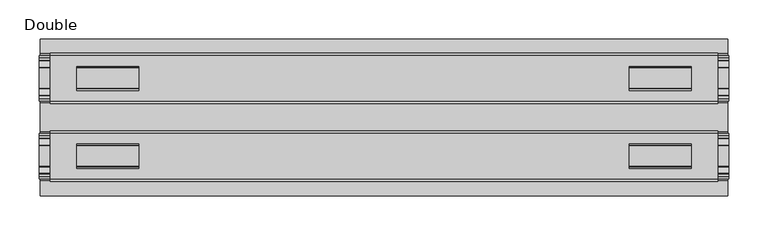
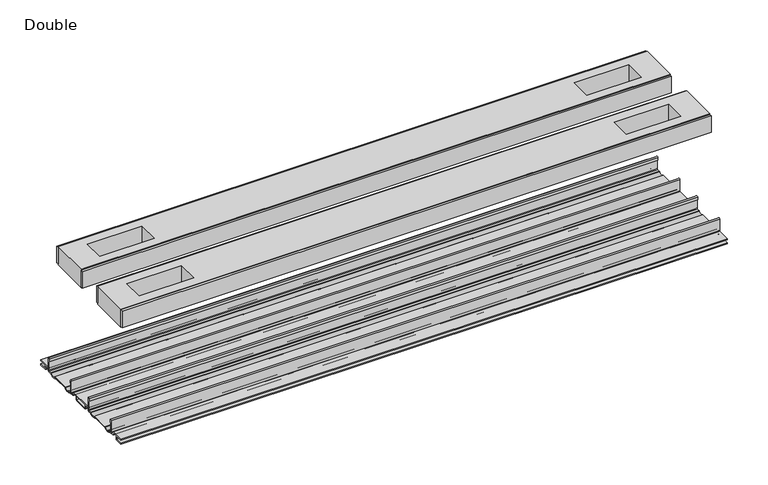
"""IFC4 building model written with IfcOpenShell, lengths in millimetres: proxy geometry, Frame-Teknion-FHCRA-Horizontal_Rail-R2022 : Double."""

import ifcopenshell
import ifcopenshell.guid

model = None  # the IFC model being written
_history = None  # IfcOwnerHistory: only IFC2X3 demands one
_inside = {}  # id of a spatial element -> (the spatial element, [elements in it])
_under = {}  # id of a project, library or spatial element -> (it, [spatial elements below it])
_declared = {}  # id of a project -> (the project, [libraries it declares])
_typed = {}  # id of a type object -> (the type object, [elements of that type])
_made_of = {}  # id of a material, layer set ... -> (it, [elements and type objects made of it])


def new_model(schema):
    """Start an empty IFC model of exactly this schema.

    Asked for "IFC4X3", IfcOpenShell would pick the latest addendum, in which some entities
    have other attributes; the version numbers below select the first issue.
    IFC2X3 requires an IfcOwnerHistory on every rooted entity: one is made here for all.
    """
    global model, _history
    if schema == "IFC4X3":
        model = ifcopenshell.file(schema_version=(4, 3, 0, 0))
    else:
        model = ifcopenshell.file(schema=schema)
    _inside.clear()
    _under.clear()
    _declared.clear()
    _typed.clear()
    _made_of.clear()
    _history = None
    if model.schema == "IFC2X3":
        org = make("IfcOrganization", Name="unknown")
        user = make(
            "IfcPersonAndOrganization",
            ThePerson=make("IfcPerson", FamilyName="unknown"),
            TheOrganization=org,
        )
        app = make(
            "IfcApplication",
            ApplicationDeveloper=org,
            Version="unknown",
            ApplicationFullName="unknown",
            ApplicationIdentifier="unknown",
        )
        _history = make(
            "IfcOwnerHistory",
            OwningUser=user,
            OwningApplication=app,
            ChangeAction="ADDED",
            CreationDate=0,
        )
    return model


def make(cls, **values):
    """One entity of the class cls with the attributes given. An attribute that is None is left unset."""
    return model.create_entity(
        cls, **{name: value for name, value in values.items() if value is not None}
    )


def rooted(cls, **values):
    """An entity with a GlobalId (a new one), such as an element, a storey or a relation."""
    return make(cls, GlobalId=ifcopenshell.guid.new(), OwnerHistory=_history, **values)


def si_unit(unit_type, name, prefix=None):
    """IfcSIUnit, for example si_unit("LENGTHUNIT", "METRE", prefix="MILLI")."""
    return make("IfcSIUnit", UnitType=unit_type, Prefix=prefix, Name=name)


def assignment(units):
    """IfcUnitAssignment: the units of a project."""
    return None if units is None else make("IfcUnitAssignment", Units=units)


def point(xyz):
    """IfcCartesianPoint."""
    return None if xyz is None else make("IfcCartesianPoint", Coordinates=xyz)


def direction(xyz):
    """IfcDirection."""
    return None if xyz is None else make("IfcDirection", DirectionRatios=xyz)


def frame(location, z_axis=None, x_axis=None):
    """IfcAxis2Placement3D, a coordinate frame: its origin and axes. An axis left out is left unset."""
    return make(
        "IfcAxis2Placement3D",
        Location=point(location),
        Axis=direction(z_axis),
        RefDirection=direction(x_axis),
    )


def frame_2d(location, x_axis=None):
    """IfcAxis2Placement2D, a coordinate frame in the plane: its origin and x axis."""
    return make(
        "IfcAxis2Placement2D", Location=point(location), RefDirection=direction(x_axis)
    )


def origin():
    """The frame at (0, 0, 0) with its axes left unset."""
    return frame((0.0, 0.0, 0.0))


def place(relative_to, where):
    """IfcLocalPlacement: puts the frame where relative to a parent placement (None: the world)."""
    return make(
        "IfcLocalPlacement", PlacementRelTo=relative_to, RelativePlacement=where
    )


def context(
    kind, dimensions, precision=None, world=None, true_north=None, identifier=None
):
    """IfcGeometricRepresentationContext, for example the 3D "Model" context."""
    return make(
        "IfcGeometricRepresentationContext",
        ContextIdentifier=identifier,
        ContextType=kind,
        CoordinateSpaceDimension=dimensions,
        Precision=precision,
        WorldCoordinateSystem=world,
        TrueNorth=true_north,
    )


def project(units=None, contexts=None):
    """IfcProject with its units and contexts."""
    return rooted(
        "IfcProject",
        Name="project",
        RepresentationContexts=contexts,
        UnitsInContext=assignment(units),
    )


def spatial(cls, under=None, at=None, **own):
    """A site, building, storey or space (cls), placed at a placement, below another one or the project."""
    s = rooted(cls, ObjectPlacement=at, **own)
    if under is not None:
        _under.setdefault(under.id(), (under, []))[1].append(s)
    return s


def polyline(points):
    """IfcPolyline through the points."""
    return make("IfcPolyline", Points=[point(p) for p in points])


def circle_curve(where, radius):
    """IfcCircle in the frame where."""
    return make("IfcCircle", Position=where, Radius=radius)


def trimmed(basis, trim1, trim2, sense, master):
    """IfcTrimmedCurve: the piece of a basis curve between two trims."""
    return make(
        "IfcTrimmedCurve",
        BasisCurve=basis,
        Trim1=trim1,
        Trim2=trim2,
        SenseAgreement=sense,
        MasterRepresentation=master,
    )


def segment(curve, same_sense, transition):
    """IfcCompositeCurveSegment."""
    return make(
        "IfcCompositeCurveSegment",
        Transition=transition,
        SameSense=same_sense,
        ParentCurve=curve,
    )


def composite_curve(segments, self_intersect=None):
    """IfcCompositeCurve: segments joined end to end."""
    return make("IfcCompositeCurve", Segments=segments, SelfIntersect=self_intersect)


def outline(outer, holes=None, kind="AREA"):
    """IfcArbitraryClosedProfileDef: a profile drawn as a closed curve; with holes, ...WithVoids."""
    if holes is None:
        return make("IfcArbitraryClosedProfileDef", ProfileType=kind, OuterCurve=outer)
    return make(
        "IfcArbitraryProfileDefWithVoids",
        ProfileType=kind,
        OuterCurve=outer,
        InnerCurves=holes,
    )


def extrude(swept, where, along, depth):
    """IfcExtrudedAreaSolid: the profile swept, set in the frame where, extruded along a direction by depth."""
    return make(
        "IfcExtrudedAreaSolid",
        SweptArea=swept,
        Position=where,
        ExtrudedDirection=direction(along),
        Depth=depth,
    )


def shape(context_of_items, identifier, shape_type, items):
    """IfcShapeRepresentation: the items that make up one representation, for example the "Body"."""
    return make(
        "IfcShapeRepresentation",
        ContextOfItems=context_of_items,
        RepresentationIdentifier=identifier,
        RepresentationType=shape_type,
        Items=items,
    )


def source(mapping_origin, context_of_items, identifier, shape_type, items):
    """IfcRepresentationMap: a shape defined once, which mapped items show again and again."""
    return make(
        "IfcRepresentationMap",
        MappingOrigin=mapping_origin,
        MappedRepresentation=shape(context_of_items, identifier, shape_type, items),
    )


def transform(
    local_origin,
    x_axis=None,
    y_axis=None,
    z_axis=None,
    scale=None,
    scale2=None,
    scale3=None,
    uniform=True,
):
    """IfcCartesianTransformationOperator3D, or its non-uniform kind. x_axis, y_axis, z_axis: its Axis1, 2, 3."""
    if uniform:
        return make(
            "IfcCartesianTransformationOperator3D",
            Axis1=direction(x_axis),
            Axis2=direction(y_axis),
            LocalOrigin=point(local_origin),
            Scale=scale,
            Axis3=direction(z_axis),
        )
    return make(
        "IfcCartesianTransformationOperator3DnonUniform",
        Axis1=direction(x_axis),
        Axis2=direction(y_axis),
        LocalOrigin=point(local_origin),
        Scale=scale,
        Axis3=direction(z_axis),
        Scale2=scale2,
        Scale3=scale3,
    )


def mapped(mapping_source, mapping_target):
    """IfcMappedItem: shows the shape of a source again, moved by a transform."""
    return make(
        "IfcMappedItem", MappingSource=mapping_source, MappingTarget=mapping_target
    )


def made_of(thing, what):
    """Note that an element or type object is made of a material, layer set ...; save() writes the relation."""
    if what is not None:
        _made_of.setdefault(what.id(), (what, []))[1].append(thing)
    return thing


def element(
    cls,
    number,
    at=None,
    inside=None,
    cuts=None,
    type_object=None,
    material=None,
    context=None,
    identifier="Body",
    shape_type=None,
    held_by="IfcProductDefinitionShape",
    body=None,
    shapes=None,
    **own,
):
    """One element of the class cls, such as IfcWall. Its Tag is "e" and its number.

    at: its placement. inside: the storey or other place that contains it. cuts: it is an
    opening in that element (IfcRelVoidsElement). A single representation is given by context,
    identifier, shape_type and body (its items); several are given by shapes. held_by: the class
    of the entity that holds the representations. save() writes the other relations.
    """
    e = rooted(cls, Tag="e%d" % number, ObjectPlacement=at, **own)
    if body is not None:
        shapes = [shape(context, identifier, shape_type, body)]
    if shapes is not None:
        e.Representation = make(held_by, Representations=shapes)
    if inside is not None:
        _inside.setdefault(inside.id(), (inside, []))[1].append(e)
    if cuts is not None:
        rooted(
            "IfcRelVoidsElement", RelatingBuildingElement=cuts, RelatedOpeningElement=e
        )
    if type_object is not None:
        _typed.setdefault(type_object.id(), (type_object, []))[1].append(e)
    return made_of(e, material)


def aggregate(whole, parts):
    """IfcRelAggregates: a whole, such as a stair, and the parts it consists of."""
    return rooted("IfcRelAggregates", RelatingObject=whole, RelatedObjects=parts)


def save(model, path):
    """Write the relations noted so far, then the file.

    IfcRelAggregates (storeys below a building ...), IfcRelContainedInSpatialStructure (elements
    in a storey), IfcRelDefinesByType, IfcRelAssociatesMaterial and IfcRelDeclares: one each for
    every whole, place, type object, material and project.
    """
    for whole, parts in _under.values():
        aggregate(whole, parts)
    for where, things in _inside.values():
        rooted(
            "IfcRelContainedInSpatialStructure",
            RelatedElements=things,
            RelatingStructure=where,
        )
    for kind, things in _typed.values():
        rooted("IfcRelDefinesByType", RelatedObjects=things, RelatingType=kind)
    for what, things in _made_of.values():
        rooted("IfcRelAssociatesMaterial", RelatedObjects=things, RelatingMaterial=what)
    for by, libraries in _declared.values():
        rooted("IfcRelDeclares", RelatingContext=by, RelatedDefinitions=libraries)
    model.write(path)


def double_16775ed8(model_context):
    return source(origin(), model_context, "Body", "SweptSolid", [
        extrude(outline(composite_curve([segment(polyline([(-78.8225461, -7.7516037), (-78.8225461, 9.8607558)]), True, "CONTINUOUS"), segment(trimmed(circle_curve(frame_2d((-77.6033482, 9.8607558)), 1.2191979), [point((-78.8225461, 9.8607558))], [point((-76.3841503, 9.8607558))], False, "CARTESIAN"), True, "CONTINUOUS"), segment(polyline([(-76.3841503, 9.8607558), (-76.3841503, 5.9999563), (-77.6643269, 5.9999563), (-77.6643269, -7.7516037)]), True, "CONTINUOUS"), segment(trimmed(circle_curve(frame_2d((-76.6483061, -7.7516037)), 1.0160208), [point((-77.6643269, -7.7516037))], [point((-76.6548232, -8.7676036))], True, "CARTESIAN"), True, "CONTINUOUS"), segment(polyline([(-76.6548232, -8.7676036), (-72.7118726, -8.7676036), (-71.7985108, -8.968753)]), True, "CONTINUOUS"), segment(trimmed(circle_curve(frame_2d((-67.7735521, -6.1259382)), 4.9276657), [point((-71.7985108, -8.968753))], [point((-63.7485934, -8.968753))], True, "CARTESIAN"), True, "CONTINUOUS"), segment(polyline([(-63.7485934, -8.968753), (-62.8352226, -8.7676036), (-36.7962778, -8.7676036), (-35.8829069, -8.968753)]), True, "CONTINUOUS"), segment(trimmed(circle_curve(frame_2d((-31.8579482, -6.1259382)), 4.9276657), [point((-35.8829069, -8.968753))], [point((-27.8329895, -8.968753))], True, "CARTESIAN"), True, "CONTINUOUS"), segment(polyline([(-27.8329895, -8.968753), (-26.9196277, -8.7676036), (-22.9766772, -8.7676036)]), True, "CONTINUOUS"), segment(trimmed(circle_curve(frame_2d((-22.9831943, -7.7516037)), 1.0160208), [point((-22.9766772, -8.7676036))], [point((-21.9671735, -7.7516037))], True, "CARTESIAN"), True, "CONTINUOUS"), segment(polyline([(-21.9671735, -7.7516037), (-21.9671735, 5.9999563), (-23.2473501, 5.9999563), (-23.2473501, 9.8607558)]), True, "CONTINUOUS"), segment(trimmed(circle_curve(frame_2d((-22.0281522, 9.8607558)), 1.2191979), [point((-23.2473501, 9.8607558))], [point((-20.8089542, 9.8607558))], False, "CARTESIAN"), True, "CONTINUOUS"), segment(polyline([(-20.8089542, 9.8607558), (-20.8089542, -7.7516037)]), True, "CONTINUOUS"), segment(trimmed(circle_curve(frame_2d((-22.9831943, -7.7516037)), 2.17424), [point((-20.8089542, -7.7516037))], [point((-22.9831943, -9.9258438))], False, "CARTESIAN"), True, "CONTINUOUS"), segment(polyline([(-22.9831943, -9.9258438), (-27.274181, -9.9258438)]), True, "CONTINUOUS"), segment(trimmed(circle_curve(frame_2d((-31.8545955, -6.4800016)), 5.7318431), [point((-27.274181, -9.9258438))], [point((-36.43501, -9.9258438))], False, "CARTESIAN"), True, "CONTINUOUS"), segment(polyline([(-36.43501, -9.9258438), (-63.1964904, -9.9258438)]), True, "CONTINUOUS"), segment(trimmed(circle_curve(frame_2d((-67.7769049, -6.4800016)), 5.7318431), [point((-63.1964904, -9.9258438))], [point((-72.3573194, -9.9258438))], False, "CARTESIAN"), True, "CONTINUOUS"), segment(polyline([(-72.3573194, -9.9258438), (-76.6483061, -9.9258438)]), True, "CONTINUOUS"), segment(trimmed(circle_curve(frame_2d((-76.6483061, -7.7516037)), 2.17424), [point((-76.6483061, -9.9258438))], [point((-78.8225461, -7.7516037))], False, "CARTESIAN"), True, "CONTINUOUS")], self_intersect=False)), frame((-441.5715701, 0.0, 0.0), z_axis=(1.0, 0.0, 0.0), x_axis=(0.0, 1.0, 0.0)), (0.0, 0.0, 1.0), 883.1431403),
        extrude(outline(composite_curve([segment(trimmed(circle_curve(frame_2d((77.0293057, -7.7516037)), 2.17424), [point((79.2035458, -7.7516037))], [point((77.0293057, -9.9258438))], False, "CARTESIAN"), True, "CONTINUOUS"), segment(polyline([(77.0293057, -9.9258438), (72.738319, -9.9258438)]), True, "CONTINUOUS"), segment(trimmed(circle_curve(frame_2d((68.1579045, -6.4800016)), 5.7318431), [point((72.738319, -9.9258438))], [point((63.57749, -9.9258438))], False, "CARTESIAN"), True, "CONTINUOUS"), segment(polyline([(63.57749, -9.9258438), (36.8160096, -9.9258438)]), True, "CONTINUOUS"), segment(trimmed(circle_curve(frame_2d((32.2355951, -6.4800016)), 5.7318431), [point((36.8160096, -9.9258438))], [point((27.6551806, -9.9258438))], False, "CARTESIAN"), True, "CONTINUOUS"), segment(polyline([(27.6551806, -9.9258438), (23.3641939, -9.9258438)]), True, "CONTINUOUS"), segment(trimmed(circle_curve(frame_2d((23.3641939, -7.7516037)), 2.17424), [point((23.3641939, -9.9258438))], [point((21.1899539, -7.7516037))], False, "CARTESIAN"), True, "CONTINUOUS"), segment(polyline([(21.1899539, -7.7516037), (21.1899539, 9.8607558)]), True, "CONTINUOUS"), segment(trimmed(circle_curve(frame_2d((22.4091518, 9.8607558)), 1.2191979), [point((21.1899539, 9.8607558))], [point((23.6283497, 9.8607558))], False, "CARTESIAN"), True, "CONTINUOUS"), segment(polyline([(23.6283497, 9.8607558), (23.6283497, 5.9999563), (22.3481731, 5.9999563), (22.3481731, -7.7516037)]), True, "CONTINUOUS"), segment(trimmed(circle_curve(frame_2d((23.3641939, -7.7516037)), 1.0160208), [point((22.3481731, -7.7516037))], [point((23.3576768, -8.7676036))], True, "CARTESIAN"), True, "CONTINUOUS"), segment(polyline([(23.3576768, -8.7676036), (27.3006274, -8.7676036), (28.2139892, -8.968753)]), True, "CONTINUOUS"), segment(trimmed(circle_curve(frame_2d((32.2389479, -6.1259382)), 4.9276657), [point((28.2139892, -8.968753))], [point((36.2639066, -8.968753))], True, "CARTESIAN"), True, "CONTINUOUS"), segment(polyline([(36.2639066, -8.968753), (37.1772774, -8.7676036), (63.2162222, -8.7676036), (64.1295931, -8.968753)]), True, "CONTINUOUS"), segment(trimmed(circle_curve(frame_2d((68.1545518, -6.1259382)), 4.9276657), [point((64.1295931, -8.968753))], [point((72.1795105, -8.968753))], True, "CARTESIAN"), True, "CONTINUOUS"), segment(polyline([(72.1795105, -8.968753), (73.0928723, -8.7676036), (77.0358228, -8.7676036)]), True, "CONTINUOUS"), segment(trimmed(circle_curve(frame_2d((77.0293057, -7.7516037)), 1.0160208), [point((77.0358228, -8.7676036))], [point((78.0453265, -7.7516037))], True, "CARTESIAN"), True, "CONTINUOUS"), segment(polyline([(78.0453265, -7.7516037), (78.0453265, 5.9999563), (76.7651499, 5.9999563), (76.7651499, 9.8607558)]), True, "CONTINUOUS"), segment(trimmed(circle_curve(frame_2d((77.9843478, 9.8607558)), 1.2191979), [point((76.7651499, 9.8607558))], [point((79.2035458, 9.8607558))], False, "CARTESIAN"), True, "CONTINUOUS"), segment(polyline([(79.2035458, 9.8607558), (79.2035458, -7.7516037)]), True, "CONTINUOUS")], self_intersect=False)), frame((-441.5715701, 0.0, 0.0), z_axis=(1.0, 0.0, 0.0), x_axis=(0.0, 1.0, 0.0)), (0.0, 0.0, 1.0), 883.1431403),
        extrude(outline(polyline([(427.5126792, -78.8225461), (427.5126792, -81.9975522), (-427.5126792, -81.9975522), (-427.5126792, -78.8225461), (427.5126792, -78.8225461)])), frame((0.0, 0.0, 149.8401622), z_axis=(0.0, 0.0, 1.0), x_axis=(1.0, 0.0, 0.0)), (0.0, 0.0, 1.0), 25.3999939),
        extrude(outline(polyline([(427.5126792, -17.6339482), (427.5126792, -20.8089542), (-427.5126792, -20.8089542), (-427.5126792, -17.6339482), (427.5126792, -17.6339482)])), frame((0.0, 0.0, 149.8401622), z_axis=(0.0, 0.0, 1.0), x_axis=(1.0, 0.0, 0.0)), (0.0, 0.0, 1.0), 25.3999939),
        extrude(outline(polyline([(427.5126792, 21.1899493), (427.5126792, 18.0149501), (-427.5126792, 18.0149501), (-427.5126792, 21.1899493), (427.5126792, 21.1899493)])), frame((0.0, 0.0, 149.8401622), z_axis=(0.0, 0.0, 1.0), x_axis=(1.0, 0.0, 0.0)), (0.0, 0.0, 1.0), 25.3999939),
        extrude(outline(polyline([(427.5126792, 82.3785496), (427.5126792, 79.2035503), (-427.5126792, 79.2035503), (-427.5126792, 82.3785496), (427.5126792, 82.3785496)])), frame((0.0, 0.0, 149.8401622), z_axis=(0.0, 0.0, 1.0), x_axis=(1.0, 0.0, 0.0)), (0.0, 0.0, 1.0), 25.3999939),
        extrude(outline(polyline([(427.5126792, 79.2035503), (427.5126792, 21.1899493), (-427.5126792, 21.1899493), (-427.5126792, 79.2035503), (427.5126792, 79.2035503)]), holes=[polyline([(393.0956666, 65.3097536), (314.0508548, 65.3097536), (314.0508548, 34.3217468), (393.0956666, 34.3217468), (393.0956666, 65.3097536)]), polyline([(-393.0956666, 65.3097536), (-393.0956666, 34.3217468), (-314.0508548, 34.3217468), (-314.0508548, 65.3097536), (-393.0956666, 65.3097536)])]), frame((0.0, 0.0, 148.4185847), z_axis=(0.0, 0.0, 1.0), x_axis=(1.0, 0.0, 0.0)), (0.0, 0.0, 1.0), 27.9999988),
        extrude(outline(polyline([(427.5126792, -78.8225461), (-427.5126792, -78.8225461), (-427.5126792, -20.8224524), (427.5126792, -20.8224524), (427.5126792, -78.8225461)]), holes=[polyline([(393.0956666, -65.3097536), (393.0956666, -34.3217468), (314.0508548, -34.3217468), (314.0508548, -65.3097536), (393.0956666, -65.3097536)]), polyline([(-393.0956666, -65.3097536), (-314.0508548, -65.3097536), (-314.0508548, -34.3217468), (-393.0956666, -34.3217468), (-393.0956666, -65.3097536)])]), frame((0.0, 0.0, 148.4185847), z_axis=(0.0, 0.0, 1.0), x_axis=(1.0, 0.0, 0.0)), (0.0, 0.0, 1.0), 27.9999988),
        extrude(outline(composite_curve([segment(polyline([(-100.2730922, -13.9898438), (-100.2302711, -12.3388438), (-89.7890007, -12.3388438), (-89.7890007, -7.766844), (-100.2302711, -7.766844), (-100.2730922, -6.1158439), (-81.1847475, -6.1158439)]), True, "CONTINUOUS"), segment(trimmed(circle_curve(frame_2d((-81.1847475, -7.6398436)), 1.5239997), [point((-81.1847475, -6.1158439))], [point((-79.6607478, -7.6398436))], False, "CARTESIAN"), True, "CONTINUOUS"), segment(polyline([(-79.6607478, -7.6398436), (-79.6607478, -9.9258438), (-73.1120844, -9.9258438)]), True, "CONTINUOUS"), segment(trimmed(circle_curve(frame_2d((-67.7735521, -5.2268471)), 7.1119966), [point((-73.1120844, -9.9258438))], [point((-62.4350199, -9.9258438))], True, "CARTESIAN"), True, "CONTINUOUS"), segment(polyline([(-62.4350199, -9.9258438), (-37.1964805, -9.9258438)]), True, "CONTINUOUS"), segment(trimmed(circle_curve(frame_2d((-31.8579482, -5.2268471)), 7.1119966), [point((-37.1964805, -9.9258438))], [point((-26.519416, -9.9258438))], True, "CARTESIAN"), True, "CONTINUOUS"), segment(polyline([(-26.519416, -9.9258438), (-19.9707525, -9.9258438), (-19.9707525, -7.7656583)]), True, "CONTINUOUS"), segment(trimmed(circle_curve(frame_2d((-18.3197518, -7.7656583)), 1.6510007), [point((-19.9707525, -7.7656583))], [point((-18.3823282, -6.1158439))], False, "CARTESIAN"), True, "CONTINUOUS"), segment(polyline([(-18.3823282, -6.1158439), (18.7633278, -6.1158439)]), True, "CONTINUOUS"), segment(trimmed(circle_curve(frame_2d((18.7007515, -7.7656583)), 1.6510007), [point((18.7633278, -6.1158439))], [point((20.3517522, -7.7656583))], False, "CARTESIAN"), True, "CONTINUOUS"), segment(polyline([(20.3517522, -7.7656583), (20.3517522, -9.9258438), (26.9004156, -9.9258438)]), True, "CONTINUOUS"), segment(trimmed(circle_curve(frame_2d((32.2389479, -5.2268471)), 7.1119966), [point((26.9004156, -9.9258438))], [point((37.5774801, -9.9258438))], True, "CARTESIAN"), True, "CONTINUOUS"), segment(polyline([(37.5774801, -9.9258438), (62.8160195, -9.9258438)]), True, "CONTINUOUS"), segment(trimmed(circle_curve(frame_2d((68.1545518, -5.2268471)), 7.1119966), [point((62.8160195, -9.9258438))], [point((73.493084, -9.9258438))], True, "CARTESIAN"), True, "CONTINUOUS"), segment(polyline([(73.493084, -9.9258438), (80.0417475, -9.9258438), (80.0417475, -7.7656583)]), True, "CONTINUOUS"), segment(trimmed(circle_curve(frame_2d((81.6927482, -7.7656583)), 1.6510007), [point((80.0417475, -7.7656583))], [point((81.6301718, -6.1158439))], False, "CARTESIAN"), True, "CONTINUOUS"), segment(polyline([(81.6301718, -6.1158439), (100.6540918, -6.1158439), (100.6112708, -7.766844), (90.1700003, -7.766844), (90.1700003, -12.3388438), (100.6112708, -12.3388438), (100.6540918, -13.9898438), (90.0430018, -13.9898438)]), True, "CONTINUOUS"), segment(trimmed(circle_curve(frame_2d((90.0430018, -12.4658438)), 1.524), [point((90.0430018, -13.9898438))], [point((88.5190019, -12.4658438))], False, "CARTESIAN"), True, "CONTINUOUS"), segment(polyline([(88.5190019, -12.4658438), (88.5190019, -7.766844), (81.692747, -7.766844), (81.692747, -10.0528438)]), True, "CONTINUOUS"), segment(trimmed(circle_curve(frame_2d((80.1687471, -10.0528438)), 1.524), [point((81.692747, -10.0528438))], [point((80.1687471, -11.5768438))], False, "CARTESIAN"), True, "CONTINUOUS"), segment(polyline([(80.1687471, -11.5768438), (73.6626049, -11.5768438)]), True, "CONTINUOUS"), segment(trimmed(circle_curve(frame_2d((68.1545518, -6.4968436)), 7.4930002), [point((73.6626049, -11.5768438))], [point((62.8967468, -11.8354331))], False, "CARTESIAN"), True, "CONTINUOUS"), segment(polyline([(62.8967468, -11.8354331), (37.4967528, -11.8354331)]), True, "CONTINUOUS"), segment(trimmed(circle_curve(frame_2d((32.2389479, -6.4968436)), 7.4930002), [point((37.4967528, -11.8354331))], [point((26.7308947, -11.5768438))], False, "CARTESIAN"), True, "CONTINUOUS"), segment(polyline([(26.7308947, -11.5768438), (20.2247526, -11.5768438)]), True, "CONTINUOUS"), segment(trimmed(circle_curve(frame_2d((20.2247526, -10.0528438)), 1.524), [point((20.2247526, -11.5768438))], [point((18.7007526, -10.0528438))], False, "CARTESIAN"), True, "CONTINUOUS"), segment(polyline([(18.7007526, -10.0528438), (18.7007526, -7.766844), (11.8744978, -7.766844), (11.8744978, -12.4658438)]), True, "CONTINUOUS"), segment(trimmed(circle_curve(frame_2d((10.3504978, -12.4658438)), 1.524), [point((11.8744978, -12.4658438))], [point((10.3504978, -13.9898438))], False, "CARTESIAN"), True, "CONTINUOUS"), segment(polyline([(10.3504978, -13.9898438), (-9.9694982, -13.9898438)]), True, "CONTINUOUS"), segment(trimmed(circle_curve(frame_2d((-9.9694982, -12.4658438)), 1.524), [point((-9.9694982, -13.9898438))], [point((-11.4934981, -12.4658438))], False, "CARTESIAN"), True, "CONTINUOUS"), segment(polyline([(-11.4934981, -12.4658438), (-11.4934981, -7.766844), (-18.319753, -7.766844), (-18.319753, -10.0528438)]), True, "CONTINUOUS"), segment(trimmed(circle_curve(frame_2d((-19.8437529, -10.0528438)), 1.524), [point((-18.319753, -10.0528438))], [point((-19.8437529, -11.5768438))], False, "CARTESIAN"), True, "CONTINUOUS"), segment(polyline([(-19.8437529, -11.5768438), (-26.3498951, -11.5768438)]), True, "CONTINUOUS"), segment(trimmed(circle_curve(frame_2d((-31.8579482, -6.4968436)), 7.4930002), [point((-26.3498951, -11.5768438))], [point((-37.1157532, -11.8354331))], False, "CARTESIAN"), True, "CONTINUOUS"), segment(polyline([(-37.1157532, -11.8354331), (-62.5157472, -11.8354331)]), True, "CONTINUOUS"), segment(trimmed(circle_curve(frame_2d((-67.7735521, -6.4968436)), 7.4930002), [point((-62.5157472, -11.8354331))], [point((-73.2816053, -11.5768438))], False, "CARTESIAN"), True, "CONTINUOUS"), segment(polyline([(-73.2816053, -11.5768438), (-79.7877474, -11.5768438)]), True, "CONTINUOUS"), segment(trimmed(circle_curve(frame_2d((-79.7877474, -10.0528438)), 1.524), [point((-79.7877474, -11.5768438))], [point((-81.3117474, -10.0528438))], False, "CARTESIAN"), True, "CONTINUOUS"), segment(polyline([(-81.3117474, -10.0528438), (-81.3117474, -7.766844), (-88.1380022, -7.766844), (-88.1380022, -12.4658438)]), True, "CONTINUOUS"), segment(trimmed(circle_curve(frame_2d((-89.6620022, -12.4658438)), 1.524), [point((-88.1380022, -12.4658438))], [point((-89.6620022, -13.9898438))], False, "CARTESIAN"), True, "CONTINUOUS"), segment(polyline([(-89.6620022, -13.9898438), (-100.2730922, -13.9898438)]), True, "CONTINUOUS")], self_intersect=False), holes=[polyline([(-9.8424997, -12.3388438), (10.2234993, -12.3388438), (10.2234993, -7.766844), (-9.8424997, -7.766844), (-9.8424997, -12.3388438)])]), frame((-439.9205701, 0.0, 0.0), z_axis=(1.0, 0.0, 0.0), x_axis=(0.0, 1.0, 0.0)), (0.0, 0.0, 1.0), 879.8411403),
    ])


if __name__ == "__main__":
    model = new_model("IFC4")
    model_context = context("Model", 3, world=origin())
    ifc_project = project(units=[si_unit("LENGTHUNIT", "METRE", prefix="MILLI")], contexts=[model_context])
    site = spatial("IfcSite", under=ifc_project)
    building = spatial("IfcBuilding", under=site)
    placement = place(None, origin())
    double_shape = double_16775ed8(model_context)
    element("IfcBuildingElementProxy", 1, Name="Frame-Teknion-FHCRA-Horizontal_Rail-R2022 : Double", ObjectType="Frame-Teknion-FHCRA-Horizontal_Rail-R2022 : Double", at=placement, inside=building, context=model_context, shape_type="MappedRepresentation", body=[
        mapped(double_shape, transform((0.0, 0.0, 0.0), x_axis=(1.0, 0.0, 0.0), y_axis=(0.0, 1.0, 0.0), z_axis=(0.0, 0.0, 1.0))),
    ])
    save(model, "model.ifc")
